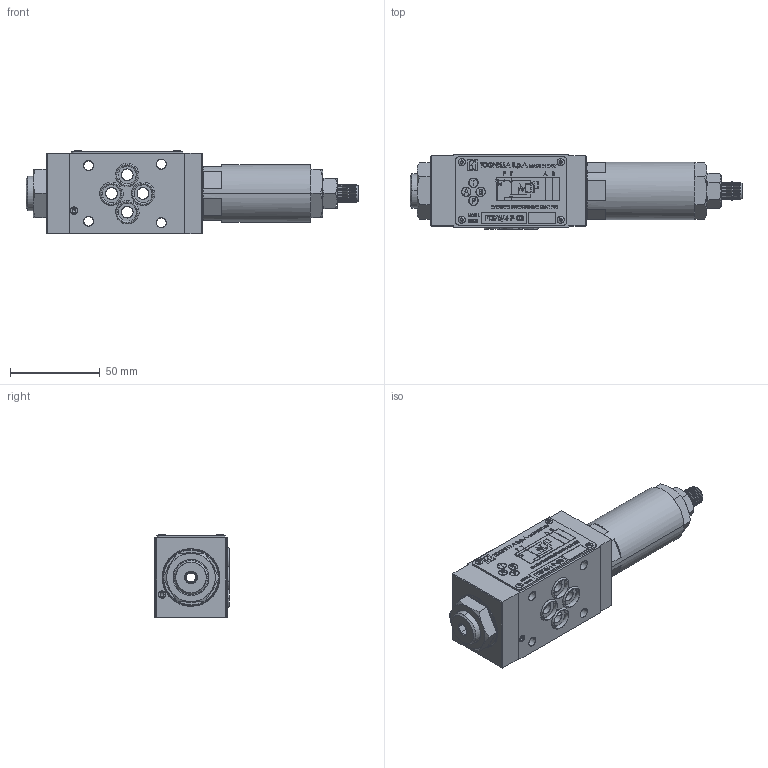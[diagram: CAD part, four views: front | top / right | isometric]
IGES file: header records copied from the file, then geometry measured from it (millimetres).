
Start section: SolidWorks IGES file using analytic representation for surfaces
Global section: file name: C:\Users\pc-te25\Desktop\ASSIEME 375-4-P-03.IGS; native system: SolidWorks 2018; preprocessor: SolidWorks 2018; author: pc-te25; date: 191203.145527; units: millimetre
Bounding box: 184.68 x 41.32 x 46.66 mm (x, y, z)
Surface area: 37108 mm2 (no closed solid volume)
Topology: 0 solids, 0 shells, 751 faces, 13700 edges, 13700 vertices
Faces by surface type: bspline 520, revolution 231
